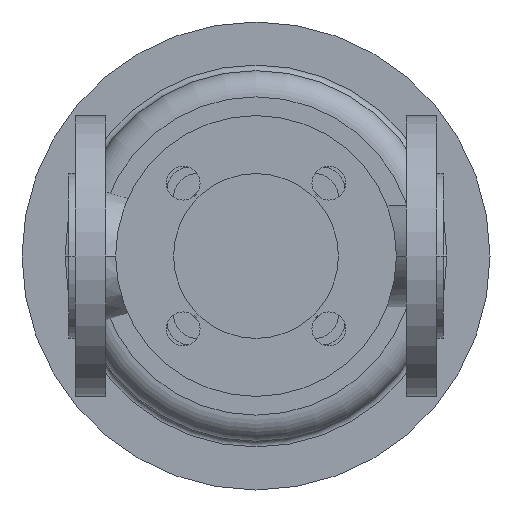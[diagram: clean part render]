
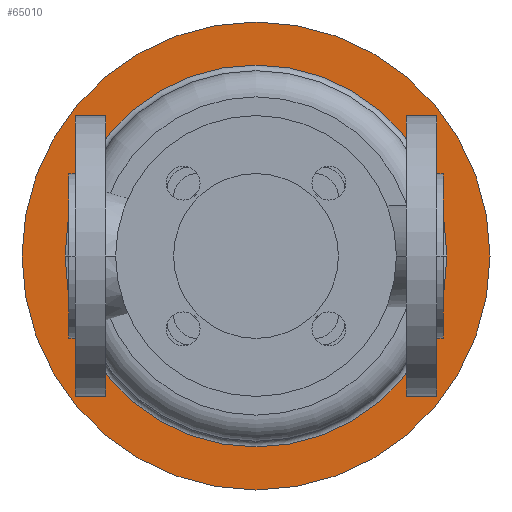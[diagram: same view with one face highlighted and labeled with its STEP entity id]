
A CAD part, front view. The second image highlights one B-rep face of the part: STEP entity #65010.
In plain terms, the highlighted planar face has unit normal (0, -1, 0).
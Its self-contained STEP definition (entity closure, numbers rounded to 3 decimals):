
#49860=CARTESIAN_POINT('',(-25.,587.5,0.));
#49870=VERTEX_POINT('',#49860);
#49900=CARTESIAN_POINT('',(100.,587.5,0.));
#49910=DIRECTION('',(0.,1.,0.));
#49920=DIRECTION('',(1.,0.,0.));
#49930=AXIS2_PLACEMENT_3D('',#49900,#49910,#49920);
#49940=CIRCLE('',#49930,125.);
#49950=CARTESIAN_POINT('',(225.,587.5,0.));
#49960=VERTEX_POINT('',#49950);
#49970=EDGE_CURVE('',#49960,#49870,#49940,.T.);
#50220=CARTESIAN_POINT('',(100.,587.5,0.));
#50230=DIRECTION('',(0.,1.,0.));
#50240=DIRECTION('',(1.,0.,0.));
#50250=AXIS2_PLACEMENT_3D('',#50220,#50230,#50240);
#50260=CIRCLE('',#50250,102.);
#50270=CARTESIAN_POINT('',(100.,587.5,102.));
#50280=VERTEX_POINT('',#50270);
#50290=CARTESIAN_POINT('',(202.,587.5,0.));
#50300=VERTEX_POINT('',#50290);
#50310=EDGE_CURVE('',#50280,#50300,#50260,.T.);
#50600=CARTESIAN_POINT('',(-2.,587.5,0.));
#50610=VERTEX_POINT('',#50600);
#50640=EDGE_CURVE('',#50610,#50280,#50260,.T.);
#64850=CARTESIAN_POINT('',(213.5,587.5,0.));
#64860=DIRECTION('',(0.,-1.,0.));
#64870=DIRECTION('',(-1.,0.,0.));
#64880=AXIS2_PLACEMENT_3D('',#64850,#64860,#64870);
#64890=PLANE('',#64880);
#64900=EDGE_CURVE('',#49870,#49960,#49940,.T.);
#64910=ORIENTED_EDGE('',*,*,#64900,.F.);
#64920=ORIENTED_EDGE('',*,*,#49970,.F.);
#64930=EDGE_LOOP('',(#64920,#64910));
#64940=FACE_OUTER_BOUND('',#64930,.T.);
#64950=EDGE_CURVE('',#50300,#50610,#50260,.T.);
#64960=ORIENTED_EDGE('',*,*,#64950,.T.);
#64970=ORIENTED_EDGE('',*,*,#50310,.T.);
#64980=ORIENTED_EDGE('',*,*,#50640,.T.);
#64990=EDGE_LOOP('',(#64980,#64970,#64960));
#65000=FACE_BOUND('',#64990,.T.);
#65010=ADVANCED_FACE('',(#64940,#65000),#64890,.T.);
